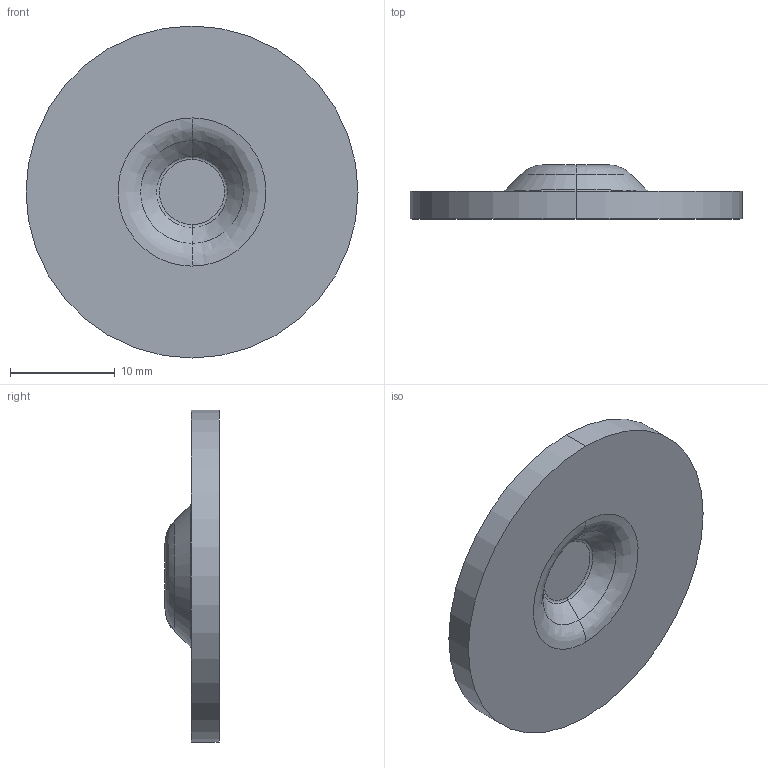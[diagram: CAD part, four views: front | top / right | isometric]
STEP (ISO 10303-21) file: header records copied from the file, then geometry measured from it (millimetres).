
FILE_DESCRIPTION (( 'STEP AP203' ), '1' );
FILE_NAME ('SO 1627505-10.STEP', '2024-09-16T15:36:47', ( '' ), ( '' ), 'SwSTEP 2.0', 'SolidWorks 2024', '' );
FILE_SCHEMA (( 'CONFIG_CONTROL_DESIGN' ));
Length unit declared in the file: inch
Products named in the file (1): SO 1627505-10
Bounding box: 31.75 x 5.18 x 31.75 mm (x, y, z)
Volume: 2167.8 mm3; surface area: 1904.7 mm2
Topology: 1 solids, 1 shells, 18 faces, 34 edges, 20 vertices
Faces by surface type: bspline 8, cone 4, plane 4, cylinder 2
Entity records: 691 total; most frequent: CARTESIAN_POINT 285, ORIENTED_EDGE 68, DIRECTION 68, EDGE_CURVE 34, AXIS2_PLACEMENT_3D 31, CIRCLE 20, VERTEX_POINT 20, EDGE_LOOP 20
